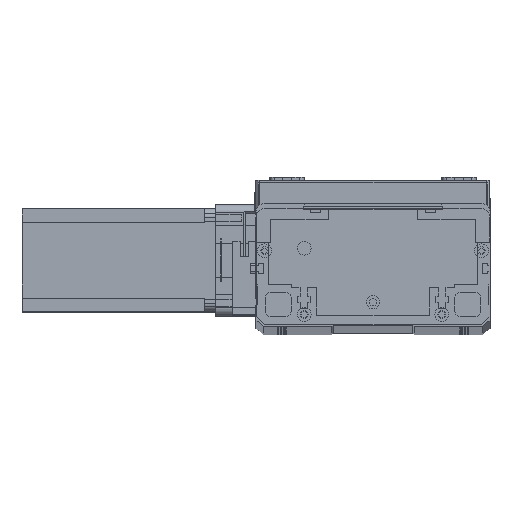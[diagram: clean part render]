
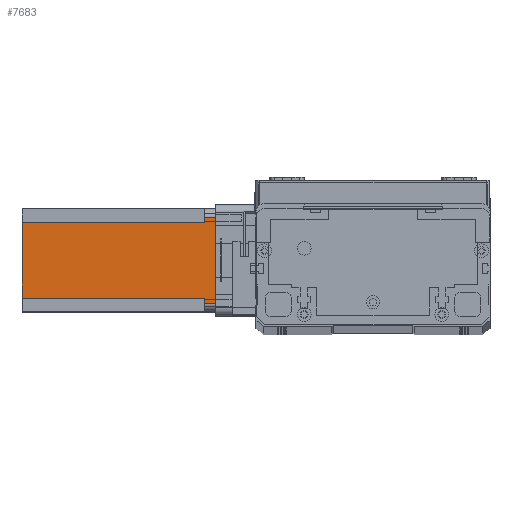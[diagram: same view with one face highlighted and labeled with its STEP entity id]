
A CAD part, top view. The second image highlights one B-rep face of the part: STEP entity #7683.
In plain terms, the highlighted planar face has unit normal (0, 0, 1) as drawn and (0, -1, 0) by its records, which use the part's own axes.
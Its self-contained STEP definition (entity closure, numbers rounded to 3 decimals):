
#107 = CARTESIAN_POINT ( 'NONE',  ( 5., 0., -6.5 ) ) ;
#837 = ORIENTED_EDGE ( 'NONE', *, *, #13391, .F. ) ;
#1767 = EDGE_CURVE ( 'NONE', #20335, #9821, #6366, .T. ) ;
#1934 = ORIENTED_EDGE ( 'NONE', *, *, #1767, .T. ) ;
#2492 = CARTESIAN_POINT ( 'NONE',  ( 55., 0., 0. ) ) ;
#3170 = DIRECTION ( 'NONE',  ( -1., 0., 0. ) ) ;
#3420 = ORIENTED_EDGE ( 'NONE', *, *, #11582, .F. ) ;
#4764 = VERTEX_POINT ( 'NONE', #14700 ) ;
#4891 = VECTOR ( 'NONE', #3170, 1000. ) ;
#5331 = CARTESIAN_POINT ( 'NONE',  ( 8., 0., -6.5 ) ) ;
#5536 = LINE ( 'NONE', #26485, #16992 ) ;
#6163 = CARTESIAN_POINT ( 'NONE',  ( 55., 0., -6.5 ) ) ;
#6366 = LINE ( 'NONE', #22129, #23879 ) ;
#7071 = EDGE_CURVE ( 'NONE', #22838, #9144, #13167, .T. ) ;
#7620 = DIRECTION ( 'NONE',  ( 1., 0., 0. ) ) ;
#7683 = ADVANCED_FACE ( 'NONE', ( #18817 ), #10466, .T. ) ;
#7876 = CARTESIAN_POINT ( 'NONE',  ( 52., 0., -112.5 ) ) ;
#8384 = CARTESIAN_POINT ( 'NONE',  ( 52., 0., -6.5 ) ) ;
#8415 = CARTESIAN_POINT ( 'NONE',  ( 0., 0., -112.5 ) ) ;
#8499 = ORIENTED_EDGE ( 'NONE', *, *, #25903, .F. ) ;
#8704 = VERTEX_POINT ( 'NONE', #21948 ) ;
#9112 = ORIENTED_EDGE ( 'NONE', *, *, #7071, .T. ) ;
#9144 = VERTEX_POINT ( 'NONE', #107 ) ;
#9821 = VERTEX_POINT ( 'NONE', #2492 ) ;
#9869 = VECTOR ( 'NONE', #25200, 1000. ) ;
#10015 = EDGE_CURVE ( 'NONE', #10857, #9144, #10687, .T. ) ;
#10218 = DIRECTION ( 'NONE',  ( 0., 0., -1. ) ) ;
#10241 = DIRECTION ( 'NONE',  ( 0., -1., 0. ) ) ;
#10457 = LINE ( 'NONE', #18991, #15461 ) ;
#10466 = PLANE ( 'NONE',  #15462 ) ;
#10529 = CARTESIAN_POINT ( 'NONE',  ( 0., 0., -112.5 ) ) ;
#10535 = ORIENTED_EDGE ( 'NONE', *, *, #23687, .T. ) ;
#10687 = LINE ( 'NONE', #5331, #4891 ) ;
#10815 = VECTOR ( 'NONE', #16512, 1000. ) ;
#10857 = VERTEX_POINT ( 'NONE', #27104 ) ;
#11250 = ORIENTED_EDGE ( 'NONE', *, *, #25342, .T. ) ;
#11539 = EDGE_LOOP ( 'NONE', ( #11250, #1934, #3420, #9112, #27148, #837, #10535, #8499 ) ) ;
#11582 = EDGE_CURVE ( 'NONE', #22838, #9821, #5536, .T. ) ;
#12516 = VECTOR ( 'NONE', #20602, 1000. ) ;
#13167 = LINE ( 'NONE', #20539, #12516 ) ;
#13391 = EDGE_CURVE ( 'NONE', #8704, #10857, #25212, .T. ) ;
#14700 = CARTESIAN_POINT ( 'NONE',  ( 52., 0., -112.5 ) ) ;
#15461 = VECTOR ( 'NONE', #16907, 1000. ) ;
#15462 = AXIS2_PLACEMENT_3D ( 'NONE', #10529, #10241, #10218 ) ;
#16354 = CARTESIAN_POINT ( 'NONE',  ( 5., 0., 0. ) ) ;
#16509 = LINE ( 'NONE', #7876, #10815 ) ;
#16512 = DIRECTION ( 'NONE',  ( 0., 0., -1. ) ) ;
#16907 = DIRECTION ( 'NONE',  ( 1., 0., 0. ) ) ;
#16992 = VECTOR ( 'NONE', #7620, 1000. ) ;
#18817 = FACE_OUTER_BOUND ( 'NONE', #11539, .T. ) ;
#18991 = CARTESIAN_POINT ( 'NONE',  ( 52., 0., -6.5 ) ) ;
#19145 = VERTEX_POINT ( 'NONE', #8384 ) ;
#19177 = DIRECTION ( 'NONE',  ( 0., 0., 1. ) ) ;
#19764 = VECTOR ( 'NONE', #19177, 1000. ) ;
#20309 = DIRECTION ( 'NONE',  ( 0., 0., 1. ) ) ;
#20335 = VERTEX_POINT ( 'NONE', #6163 ) ;
#20539 = CARTESIAN_POINT ( 'NONE',  ( 5., 0., -112.5 ) ) ;
#20602 = DIRECTION ( 'NONE',  ( 0., 0., -1. ) ) ;
#21948 = CARTESIAN_POINT ( 'NONE',  ( 8., 0., -112.5 ) ) ;
#22129 = CARTESIAN_POINT ( 'NONE',  ( 55., 0., -112.5 ) ) ;
#22838 = VERTEX_POINT ( 'NONE', #16354 ) ;
#23195 = CARTESIAN_POINT ( 'NONE',  ( 8., 0., -112.5 ) ) ;
#23687 = EDGE_CURVE ( 'NONE', #8704, #4764, #26502, .T. ) ;
#23879 = VECTOR ( 'NONE', #20309, 1000. ) ;
#25200 = DIRECTION ( 'NONE',  ( 1., 0., 0. ) ) ;
#25212 = LINE ( 'NONE', #23195, #19764 ) ;
#25342 = EDGE_CURVE ( 'NONE', #19145, #20335, #10457, .T. ) ;
#25903 = EDGE_CURVE ( 'NONE', #19145, #4764, #16509, .T. ) ;
#26485 = CARTESIAN_POINT ( 'NONE',  ( 0., 0., 0. ) ) ;
#26502 = LINE ( 'NONE', #8415, #9869 ) ;
#27104 = CARTESIAN_POINT ( 'NONE',  ( 8., 0., -6.5 ) ) ;
#27148 = ORIENTED_EDGE ( 'NONE', *, *, #10015, .F. ) ;
